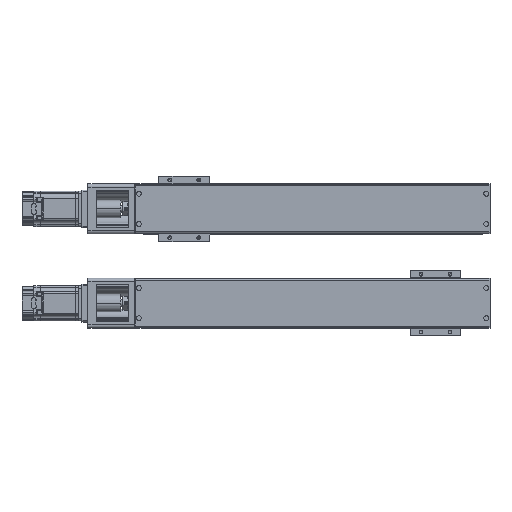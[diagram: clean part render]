
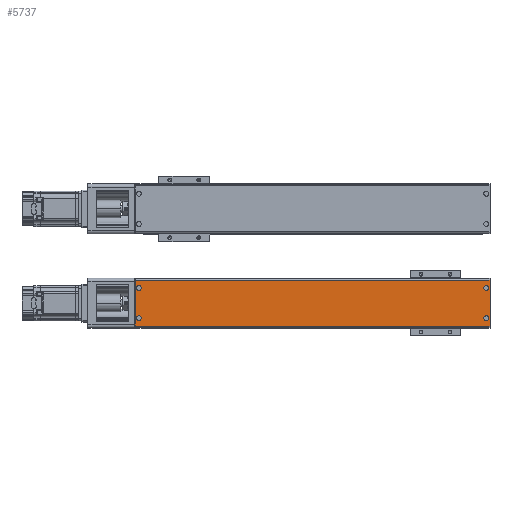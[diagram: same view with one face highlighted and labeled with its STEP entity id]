
A CAD part, top view. The second image highlights one B-rep face of the part: STEP entity #5737.
In plain terms, the highlighted planar face has unit normal (0, 0, 1).
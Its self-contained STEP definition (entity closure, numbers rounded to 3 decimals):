
#5737=ADVANCED_FACE('',(#13616,#13617,#13618,#13619,#13620),#13621,.F.);
#13616=FACE_OUTER_BOUND('',#24514,.T.);
#13617=FACE_BOUND('',#24515,.T.);
#13618=FACE_BOUND('',#24516,.T.);
#13619=FACE_BOUND('',#24517,.T.);
#13620=FACE_BOUND('',#24518,.T.);
#13621=PLANE('',#24519);
#24514=EDGE_LOOP('',(#41734,#41735,#41736,#41737));
#24515=EDGE_LOOP('',(#41738,#41739));
#24516=EDGE_LOOP('',(#41740,#41741));
#24517=EDGE_LOOP('',(#41742,#41743));
#24518=EDGE_LOOP('',(#41744,#41745));
#24519=AXIS2_PLACEMENT_3D('',#41746,#41747,#41748);
#41734=ORIENTED_EDGE('',*,*,#67555,.T.);
#41735=ORIENTED_EDGE('',*,*,#67556,.F.);
#41736=ORIENTED_EDGE('',*,*,#67557,.F.);
#41737=ORIENTED_EDGE('',*,*,#67558,.T.);
#41738=ORIENTED_EDGE('',*,*,#63630,.F.);
#41739=ORIENTED_EDGE('',*,*,#67559,.F.);
#41740=ORIENTED_EDGE('',*,*,#64322,.F.);
#41741=ORIENTED_EDGE('',*,*,#65662,.F.);
#41742=ORIENTED_EDGE('',*,*,#67560,.F.);
#41743=ORIENTED_EDGE('',*,*,#67561,.F.);
#41744=ORIENTED_EDGE('',*,*,#67562,.F.);
#41745=ORIENTED_EDGE('',*,*,#67563,.F.);
#41746=CARTESIAN_POINT('',(552.0,-4.0,23.0));
#41747=DIRECTION('',(0.0,0.,-1.0));
#41748=DIRECTION('',(0.0,1.0,0.));
#63630=EDGE_CURVE('',#76141,#76137,#76143,.F.);
#64322=EDGE_CURVE('',#77348,#77344,#77350,.F.);
#65662=EDGE_CURVE('',#77344,#77348,#79597,.F.);
#67555=EDGE_CURVE('',#82579,#82580,#82581,.T.);
#67556=EDGE_CURVE('',#82582,#82580,#82583,.T.);
#67557=EDGE_CURVE('',#82584,#82582,#82585,.T.);
#67558=EDGE_CURVE('',#82584,#82579,#82586,.T.);
#67559=EDGE_CURVE('',#76137,#76141,#82587,.F.);
#67560=EDGE_CURVE('',#82588,#82589,#82590,.F.);
#67561=EDGE_CURVE('',#82589,#82588,#82591,.F.);
#67562=EDGE_CURVE('',#82592,#82593,#82594,.F.);
#67563=EDGE_CURVE('',#82593,#82592,#82595,.F.);
#76137=VERTEX_POINT('',#94046);
#76141=VERTEX_POINT('',#94051);
#76143=CIRCLE('',#94054,3.8);
#77344=VERTEX_POINT('',#96047);
#77348=VERTEX_POINT('',#96052);
#77350=CIRCLE('',#96055,3.8);
#79597=CIRCLE('',#99428,3.8);
#82579=VERTEX_POINT('',#103491);
#82580=VERTEX_POINT('',#103492);
#82581=LINE('',#103493,#103494);
#82582=VERTEX_POINT('',#103495);
#82583=LINE('',#103496,#103497);
#82584=VERTEX_POINT('',#103498);
#82585=LINE('',#103499,#103500);
#82586=LINE('',#103501,#103502);
#82587=CIRCLE('',#103503,3.8);
#82588=VERTEX_POINT('',#103504);
#82589=VERTEX_POINT('',#103505);
#82590=CIRCLE('',#103506,3.8);
#82591=CIRCLE('',#103507,3.8);
#82592=VERTEX_POINT('',#103508);
#82593=VERTEX_POINT('',#103509);
#82594=CIRCLE('',#103510,3.8);
#82595=CIRCLE('',#103511,3.8);
#94046=CARTESIAN_POINT('',(546.0,-68.3,23.0));
#94051=CARTESIAN_POINT('',(546.0,-60.7,23.0));
#94054=AXIS2_PLACEMENT_3D('',#116452,#116453,#116454);
#96047=CARTESIAN_POINT('',(546.0,-20.3,23.0));
#96052=CARTESIAN_POINT('',(546.0,-12.7,23.0));
#96055=AXIS2_PLACEMENT_3D('',#117377,#117378,#117379);
#99428=AXIS2_PLACEMENT_3D('',#119155,#119156,#119157);
#103491=CARTESIAN_POINT('',(-13.0,-4.0,23.0));
#103492=CARTESIAN_POINT('',(-13.0,-77.0,23.0));
#103493=CARTESIAN_POINT('',(-13.0,-4.0,23.0));
#103494=VECTOR('',#121728,1000.0);
#103495=CARTESIAN_POINT('',(552.0,-77.0,23.0));
#103496=CARTESIAN_POINT('',(552.0,-77.0,23.0));
#103497=VECTOR('',#121729,1000.0);
#103498=CARTESIAN_POINT('',(552.0,-4.0,23.0));
#103499=CARTESIAN_POINT('',(552.0,-4.0,23.0));
#103500=VECTOR('',#121730,1000.0);
#103501=CARTESIAN_POINT('',(552.0,-4.0,23.0));
#103502=VECTOR('',#121731,1000.0);
#103503=AXIS2_PLACEMENT_3D('',#121732,#121733,#121734);
#103504=CARTESIAN_POINT('',(-7.0,-12.7,23.0));
#103505=CARTESIAN_POINT('',(-7.0,-20.3,23.0));
#103506=AXIS2_PLACEMENT_3D('',#121735,#121736,#121737);
#103507=AXIS2_PLACEMENT_3D('',#121738,#121739,#121740);
#103508=CARTESIAN_POINT('',(-7.0,-60.7,23.0));
#103509=CARTESIAN_POINT('',(-7.0,-68.3,23.0));
#103510=AXIS2_PLACEMENT_3D('',#121741,#121742,#121743);
#103511=AXIS2_PLACEMENT_3D('',#121744,#121745,#121746);
#116452=CARTESIAN_POINT('',(546.0,-64.5,23.0));
#116453=DIRECTION('',(0.0,0.,-1.0));
#116454=DIRECTION('',(0.0,1.0,0.));
#117377=CARTESIAN_POINT('',(546.0,-16.5,23.0));
#117378=DIRECTION('',(0.0,0.,-1.0));
#117379=DIRECTION('',(0.0,1.0,0.));
#119155=CARTESIAN_POINT('',(546.0,-16.5,23.0));
#119156=DIRECTION('',(0.0,0.,-1.0));
#119157=DIRECTION('',(0.0,1.0,0.));
#121728=DIRECTION('',(0.0,-1.0,0.));
#121729=DIRECTION('',(-1.0,0.0,-0.0));
#121730=DIRECTION('',(0.0,-1.0,0.));
#121731=DIRECTION('',(-1.0,0.0,-0.0));
#121732=CARTESIAN_POINT('',(546.0,-64.5,23.0));
#121733=DIRECTION('',(0.0,0.,-1.0));
#121734=DIRECTION('',(0.0,1.0,0.));
#121735=CARTESIAN_POINT('',(-7.0,-16.5,23.0));
#121736=DIRECTION('',(0.0,0.,-1.0));
#121737=DIRECTION('',(0.0,1.0,0.));
#121738=CARTESIAN_POINT('',(-7.0,-16.5,23.0));
#121739=DIRECTION('',(0.0,0.,-1.0));
#121740=DIRECTION('',(0.0,1.0,0.));
#121741=CARTESIAN_POINT('',(-7.0,-64.5,23.0));
#121742=DIRECTION('',(0.0,0.,-1.0));
#121743=DIRECTION('',(0.0,1.0,0.));
#121744=CARTESIAN_POINT('',(-7.0,-64.5,23.0));
#121745=DIRECTION('',(0.0,0.,-1.0));
#121746=DIRECTION('',(0.0,1.0,0.));
